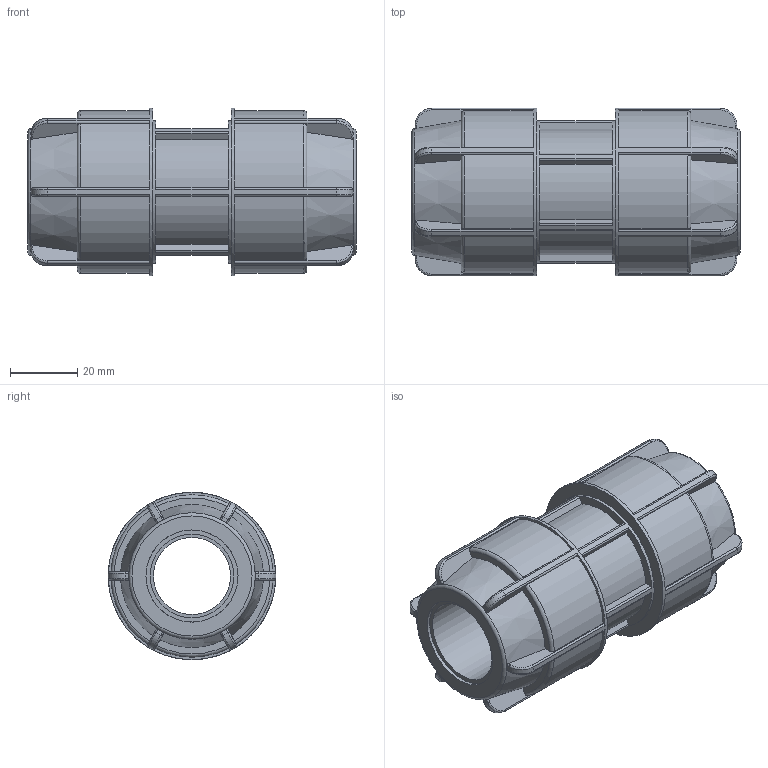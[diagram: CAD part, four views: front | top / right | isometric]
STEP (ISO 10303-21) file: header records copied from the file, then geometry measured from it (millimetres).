
FILE_DESCRIPTION(/* description */ ('PLASSON L.14 COUPLER (SILVER) 25'),/* implementation_level */ '2;1');
FILE_NAME(/* name */ 'C:\Dropbox\KIMPROJECTS-Inventor\99-16-3568-Processing\Silver Fittings\140100\140100025.ipt.stp',/* time_stamp */ '2018-06-12T15:52:41+03:00',/* author */ ('KIM'),/* organization */ (''),/* preprocessor_version */ 'ST-DEVELOPER v15.6',/* originating_system */ 'Autodesk Inventor 2015',/* authorisation */ '');
FILE_SCHEMA (('AUTOMOTIVE_DESIGN { 1 0 10303 214 3 1 1 }'));
Length unit declared in the file: millimetre
Products named in the file (1): 140100025
Bounding box: 98 x 50 x 50 mm (x, y, z)
Volume: 102103.2 mm3; surface area: 27329.2 mm2
Topology: 1 solids, 1 shells, 230 faces, 603 edges, 386 vertices
Faces by surface type: plane 92, cylinder 86, torus 26, bspline 24, cone 2
Full cylindrical faces by diameter (mm): 23 x1, 25 x2, 27.5 x2, 42.5 x1, 50 x2
Entity records: 8128 total; most frequent: CARTESIAN_POINT 2667, ORIENTED_EDGE 1164, DIRECTION 1110, EDGE_CURVE 582, AXIS2_PLACEMENT_3D 441, VERTEX_POINT 378, EDGE_LOOP 256, CIRCLE 234
